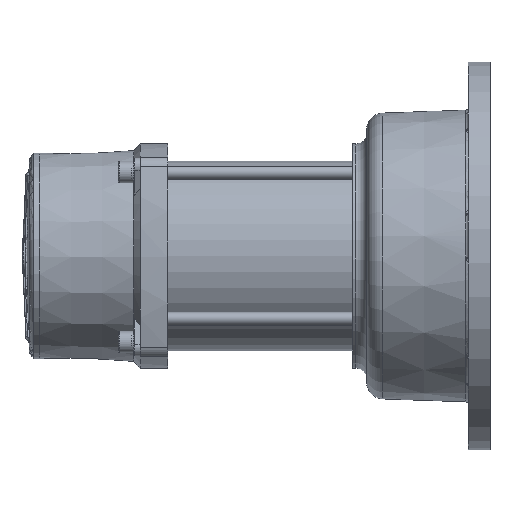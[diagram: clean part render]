
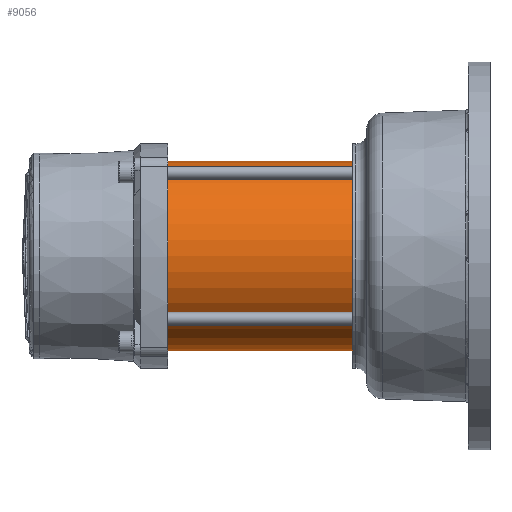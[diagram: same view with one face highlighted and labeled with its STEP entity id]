
A CAD part, front view. The second image highlights one B-rep face of the part: STEP entity #9056.
In plain terms, the highlighted cylindrical face has radius 57 mm (diameter 114 mm), a full revolution.
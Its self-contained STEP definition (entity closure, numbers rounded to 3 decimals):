
#314=B_SPLINE_CURVE_WITH_KNOTS('',3,(#16704,#16705,#16706,#16707,#16708,
#16709,#16710,#16711,#16712,#16713),.UNSPECIFIED.,.F.,.F.,(4,2,2,2,4),(3.601,
3.739,4.155,4.57,4.617),
 .UNSPECIFIED.);
#315=B_SPLINE_CURVE_WITH_KNOTS('',3,(#16715,#16716,#16717,#16718,#16719,
#16720,#16721,#16722,#16723,#16724,#16725,#16726),.UNSPECIFIED.,.F.,.F.,
(4,2,2,2,2,4),(4.617,4.986,5.401,5.817,
6.232,6.371),.UNSPECIFIED.);
#316=B_SPLINE_CURVE_WITH_KNOTS('',3,(#16730,#16731,#16732,#16733,#16734,
#16735,#16736,#16737,#16738,#16739,#16740,#16741,#16742,#16743,#16744,#16745,
#16746,#16747),.UNSPECIFIED.,.F.,.F.,(4,2,2,2,2,2,2,2,4),(0.277,
0.415,0.831,1.246,1.662,2.077,
2.493,2.908,3.047),.UNSPECIFIED.);
#788=FACE_BOUND('',#2018,.T.);
#1104=CYLINDRICAL_SURFACE('',#9848,57.);
#1423=FACE_OUTER_BOUND('',#2017,.T.);
#2017=EDGE_LOOP('',(#6943,#6944,#6945,#6946));
#2018=EDGE_LOOP('',(#6947,#6948,#6949,#6950,#6951));
#2457=LINE('',#16701,#2850);
#2458=LINE('',#16728,#2851);
#2459=LINE('',#16748,#2852);
#2850=VECTOR('',#11346,57.);
#2851=VECTOR('',#11347,10.);
#2852=VECTOR('',#11348,10.);
#3294=CIRCLE('',#9769,57.);
#3331=CIRCLE('',#9819,57.);
#3830=VERTEX_POINT('',#16555);
#3867=VERTEX_POINT('',#16654);
#3880=VERTEX_POINT('',#16702);
#3881=VERTEX_POINT('',#16703);
#3882=VERTEX_POINT('',#16714);
#3883=VERTEX_POINT('',#16727);
#3884=VERTEX_POINT('',#16729);
#4901=EDGE_CURVE('',#3830,#3830,#3294,.T.);
#4950=EDGE_CURVE('',#3867,#3867,#3331,.T.);
#4971=EDGE_CURVE('',#3830,#3867,#2457,.T.);
#4972=EDGE_CURVE('',#3880,#3881,#314,.T.);
#4973=EDGE_CURVE('',#3881,#3882,#315,.T.);
#4974=EDGE_CURVE('',#3882,#3883,#2458,.T.);
#4975=EDGE_CURVE('',#3883,#3884,#316,.T.);
#4976=EDGE_CURVE('',#3884,#3880,#2459,.T.);
#6943=ORIENTED_EDGE('',*,*,#4901,.F.);
#6944=ORIENTED_EDGE('',*,*,#4971,.T.);
#6945=ORIENTED_EDGE('',*,*,#4950,.T.);
#6946=ORIENTED_EDGE('',*,*,#4971,.F.);
#6947=ORIENTED_EDGE('',*,*,#4972,.T.);
#6948=ORIENTED_EDGE('',*,*,#4973,.T.);
#6949=ORIENTED_EDGE('',*,*,#4974,.T.);
#6950=ORIENTED_EDGE('',*,*,#4975,.T.);
#6951=ORIENTED_EDGE('',*,*,#4976,.T.);
#9056=ADVANCED_FACE('',(#1423,#788),#1104,.T.);
#9769=AXIS2_PLACEMENT_3D('',#16556,#11170,#11171);
#9819=AXIS2_PLACEMENT_3D('',#16655,#11282,#11283);
#9848=AXIS2_PLACEMENT_3D('',#16700,#11344,#11345);
#11170=DIRECTION('center_axis',(1.,0.,0.));
#11171=DIRECTION('ref_axis',(0.,1.,0.));
#11282=DIRECTION('center_axis',(1.,0.,0.));
#11283=DIRECTION('ref_axis',(0.,1.,0.));
#11344=DIRECTION('center_axis',(1.,0.,0.));
#11345=DIRECTION('ref_axis',(0.,1.,0.));
#11346=DIRECTION('',(-1.,0.,0.));
#11347=DIRECTION('',(1.,0.,0.));
#11348=DIRECTION('',(-1.,0.,0.));
#16555=CARTESIAN_POINT('',(55.5,-57.,0.));
#16556=CARTESIAN_POINT('Origin',(55.5,0.,0.));
#16654=CARTESIAN_POINT('',(-55.5,-57.,0.));
#16655=CARTESIAN_POINT('Origin',(-55.5,0.,0.));
#16700=CARTESIAN_POINT('Origin',(0.,0.,0.));
#16701=CARTESIAN_POINT('',(0.,-57.,0.));
#16702=CARTESIAN_POINT('',(-36.828,56.,10.63));
#16703=CARTESIAN_POINT('',(-44.339,56.876,3.755));
#16704=CARTESIAN_POINT('Ctrl Pts',(-36.828,56.,10.63));
#16705=CARTESIAN_POINT('Ctrl Pts',(-37.299,56.024,10.505));
#16706=CARTESIAN_POINT('Ctrl Pts',(-37.763,56.053,10.348));
#16707=CARTESIAN_POINT('Ctrl Pts',(-39.569,56.189,9.599));
#16708=CARTESIAN_POINT('Ctrl Pts',(-40.803,56.333,8.753));
#16709=CARTESIAN_POINT('Ctrl Pts',(-42.753,56.601,6.804));
#16710=CARTESIAN_POINT('Ctrl Pts',(-43.599,56.744,5.569));
#16711=CARTESIAN_POINT('Ctrl Pts',(-44.224,56.855,4.063));
#16712=CARTESIAN_POINT('Ctrl Pts',(-44.283,56.866,3.91));
#16713=CARTESIAN_POINT('Ctrl Pts',(-44.339,56.876,3.755));
#16714=CARTESIAN_POINT('',(-36.828,56.,-10.63));
#16715=CARTESIAN_POINT('Ctrl Pts',(-44.339,56.876,3.755));
#16716=CARTESIAN_POINT('Ctrl Pts',(-44.784,56.957,2.532));
#16717=CARTESIAN_POINT('Ctrl Pts',(-45.,57.,1.23));
#16718=CARTESIAN_POINT('Ctrl Pts',(-45.,57.,-1.385));
#16719=CARTESIAN_POINT('Ctrl Pts',(-44.723,56.944,-2.86));
#16720=CARTESIAN_POINT('Ctrl Pts',(-43.599,56.744,-5.569));
#16721=CARTESIAN_POINT('Ctrl Pts',(-42.753,56.601,-6.804));
#16722=CARTESIAN_POINT('Ctrl Pts',(-40.803,56.333,-8.753));
#16723=CARTESIAN_POINT('Ctrl Pts',(-39.569,56.189,-9.599));
#16724=CARTESIAN_POINT('Ctrl Pts',(-37.763,56.053,-10.348));
#16725=CARTESIAN_POINT('Ctrl Pts',(-37.299,56.024,-10.505));
#16726=CARTESIAN_POINT('Ctrl Pts',(-36.828,56.,-10.63));
#16727=CARTESIAN_POINT('',(-31.172,56.,-10.63));
#16728=CARTESIAN_POINT('',(0.,56.,-10.63));
#16729=CARTESIAN_POINT('',(-31.172,56.,10.63));
#16730=CARTESIAN_POINT('Ctrl Pts',(-31.172,56.,-10.63));
#16731=CARTESIAN_POINT('Ctrl Pts',(-30.701,56.024,-10.505));
#16732=CARTESIAN_POINT('Ctrl Pts',(-30.237,56.053,-10.348));
#16733=CARTESIAN_POINT('Ctrl Pts',(-28.431,56.189,-9.599));
#16734=CARTESIAN_POINT('Ctrl Pts',(-27.197,56.333,-8.753));
#16735=CARTESIAN_POINT('Ctrl Pts',(-25.247,56.601,-6.804));
#16736=CARTESIAN_POINT('Ctrl Pts',(-24.401,56.744,-5.569));
#16737=CARTESIAN_POINT('Ctrl Pts',(-23.277,56.944,-2.86));
#16738=CARTESIAN_POINT('Ctrl Pts',(-23.,57.,-1.385));
#16739=CARTESIAN_POINT('Ctrl Pts',(-23.,57.,1.385));
#16740=CARTESIAN_POINT('Ctrl Pts',(-23.277,56.944,2.86));
#16741=CARTESIAN_POINT('Ctrl Pts',(-24.401,56.744,5.569));
#16742=CARTESIAN_POINT('Ctrl Pts',(-25.247,56.601,6.804));
#16743=CARTESIAN_POINT('Ctrl Pts',(-27.197,56.333,8.753));
#16744=CARTESIAN_POINT('Ctrl Pts',(-28.431,56.189,9.599));
#16745=CARTESIAN_POINT('Ctrl Pts',(-30.237,56.053,10.348));
#16746=CARTESIAN_POINT('Ctrl Pts',(-30.701,56.024,10.505));
#16747=CARTESIAN_POINT('Ctrl Pts',(-31.172,56.,10.63));
#16748=CARTESIAN_POINT('',(0.,56.,10.63));
